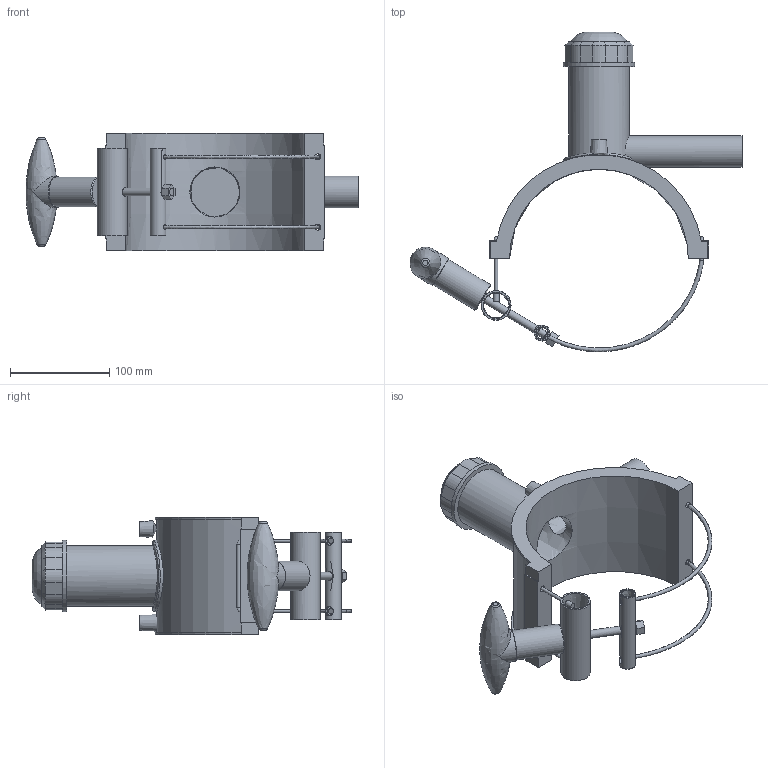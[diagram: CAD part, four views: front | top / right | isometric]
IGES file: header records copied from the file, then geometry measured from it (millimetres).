
Global section: file name: 4963Q4180032.ipt; native system: Autodesk Inventor 2019; preprocessor: unknown; author: KIM; date: 20210307.125246; units: millimetre
Bounding box: 334.18 x 321.6 x 118 mm (x, y, z)
Volume: 817607.8 mm3; surface area: 204004.7 mm2
Topology: 6 solids, 7 shells, 176 faces, 441 edges, 287 vertices
Faces by surface type: plane 83, cylinder 36, revolution 33, cone 15, bspline 9
Full cylindrical faces by diameter (mm): 3.6 x6, 4 x2, 6 x4, 8 x1, 16 x1, 30 x2, 32 x2, 61.2 x1, 72 x1
